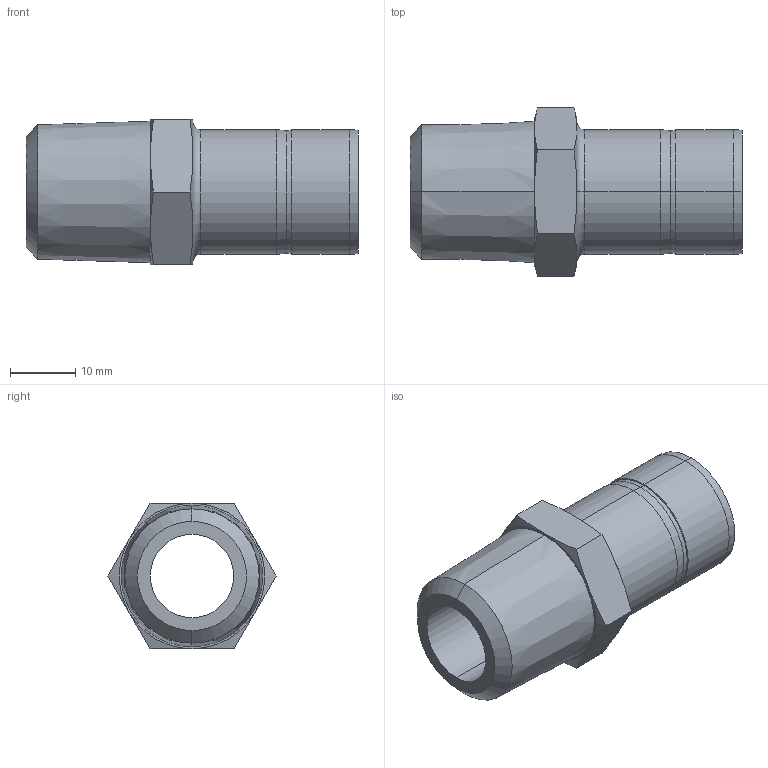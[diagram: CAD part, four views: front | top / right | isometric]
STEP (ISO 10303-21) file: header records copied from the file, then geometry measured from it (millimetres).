
FILE_DESCRIPTION (( 'STEP AP203' ), '1' );
FILE_NAME ('DHA12-08 SS.STEP', '2009-09-08T06:15:11', ( ' ' ), ( '' ), 'SwSTEP 2.0', 'SolidWorks 2008', '' );
FILE_SCHEMA (( 'CONFIG_CONTROL_DESIGN' ));
Length unit declared in the file: millimetre
Products named in the file (1): DHA12-08 SS
Bounding box: 50.7 x 25.67 x 22.23 mm (x, y, z)
Volume: 8651.1 mm3; surface area: 5906.6 mm2
Topology: 1 solids, 1 shells, 46 faces, 96 edges, 54 vertices
Faces by surface type: cone 24, cylinder 10, plane 10, torus 2
Entity records: 1357 total; most frequent: CARTESIAN_POINT 317, DIRECTION 210, ORIENTED_EDGE 192, EDGE_CURVE 96, AXIS2_PLACEMENT_3D 91, VERTEX_POINT 54, EDGE_LOOP 50, ADVANCED_FACE 46
